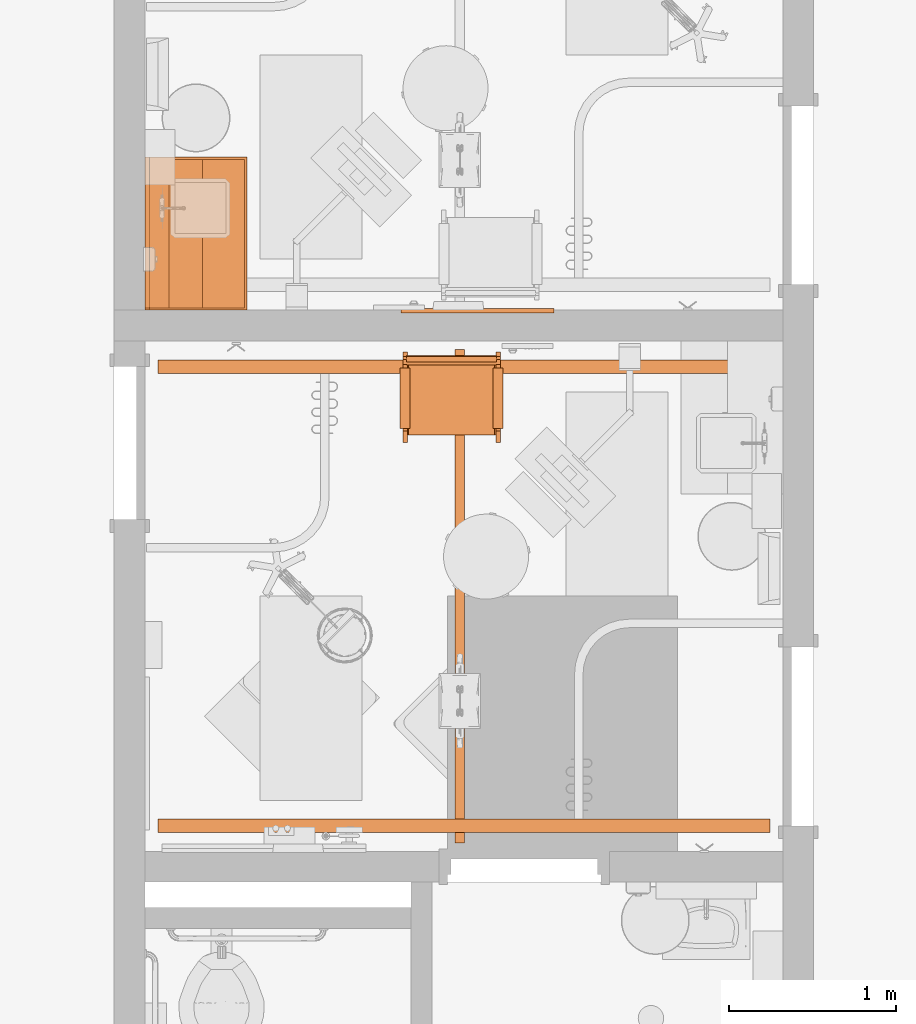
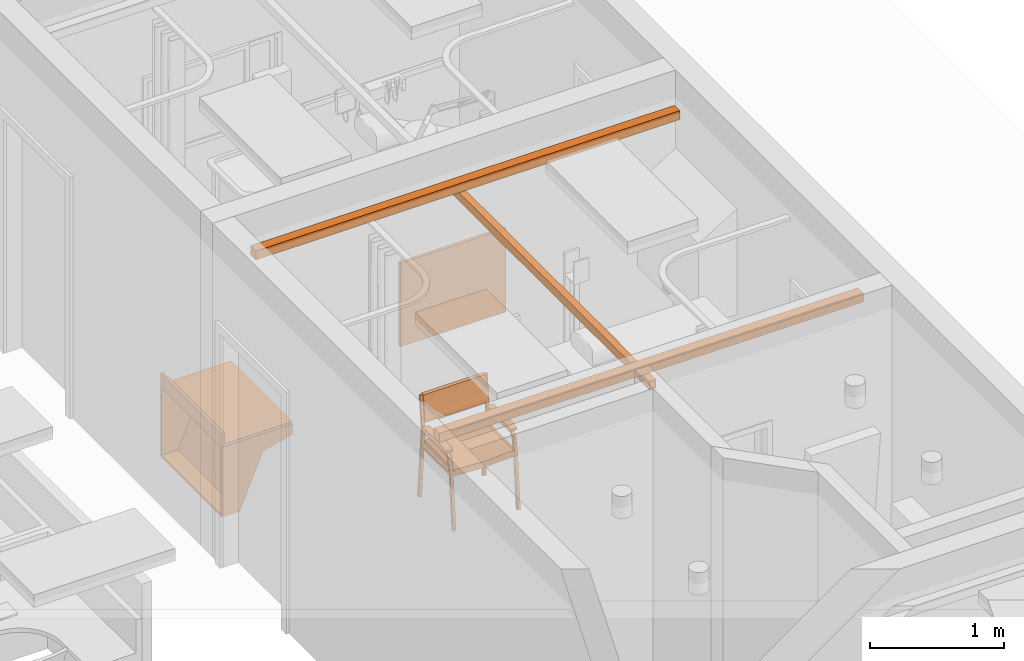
# One storey, part 35 of 142: 5 proxies.
"""IFC2X3 building model written with IfcOpenShell, lengths in feet."""

from ifc_helpers import new_model, entity, si_unit, converted_unit, derived_unit, direction, frame, frame_2d, origin, origin_2d_with_axis, place, context, subcontext, project, spatial, polyline, rectangle, outline, extrude, source, transform, mapped, type_object, type_shapes, element, save


model = new_model("IFC2X3")

# Units and contexts
model_context = context("Model", 3, precision=0.0001, world=origin(), true_north=direction((6.12303176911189e-17, 1.0)))
body_context = subcontext(model_context, "Body", "Model", "MODEL_VIEW")
ifc_project = project(units=[converted_unit("LENGTHUNIT", "FOOT", entity("IfcRatioMeasure", 0.3048), si_unit("LENGTHUNIT", "METRE"), dimensions=[1, 0, 0, 0, 0, 0, 0]), converted_unit("AREAUNIT", "SQUARE FOOT", entity("IfcRatioMeasure", 0.09290304), si_unit("AREAUNIT", "SQUARE_METRE"), dimensions=[2, 0, 0, 0, 0, 0, 0]), converted_unit("VOLUMEUNIT", "CUBIC FOOT", entity("IfcRatioMeasure", 0.028316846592), si_unit("VOLUMEUNIT", "CUBIC_METRE"), dimensions=[3, 0, 0, 0, 0, 0, 0]), converted_unit("PLANEANGLEUNIT", "DEGREE", entity("IfcRatioMeasure", 0.0174532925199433), si_unit("PLANEANGLEUNIT", "RADIAN"), dimensions=[0, 0, 0, 0, 0, 0, 0]), si_unit("MASSUNIT", "GRAM", prefix="KILO"), derived_unit("MASSDENSITYUNIT", [(si_unit("MASSUNIT", "GRAM", prefix="KILO"), 1), (si_unit("LENGTHUNIT", "METRE"), -3)]), si_unit("TIMEUNIT", "SECOND"), si_unit("FREQUENCYUNIT", "HERTZ"), si_unit("THERMODYNAMICTEMPERATUREUNIT", "DEGREE_CELSIUS"), derived_unit("THERMALTRANSMITTANCEUNIT", [(si_unit("MASSUNIT", "GRAM", prefix="KILO"), 1), (si_unit("THERMODYNAMICTEMPERATUREUNIT", "KELVIN"), -1), (si_unit("TIMEUNIT", "SECOND"), -3)]), derived_unit("VOLUMETRICFLOWRATEUNIT", [(si_unit("LENGTHUNIT", "METRE"), 3), (si_unit("TIMEUNIT", "SECOND"), -1)]), si_unit("ELECTRICCURRENTUNIT", "AMPERE"), si_unit("ELECTRICVOLTAGEUNIT", "VOLT"), si_unit("POWERUNIT", "WATT"), si_unit("FORCEUNIT", "NEWTON"), si_unit("ILLUMINANCEUNIT", "LUX"), si_unit("LUMINOUSFLUXUNIT", "LUMEN"), si_unit("LUMINOUSINTENSITYUNIT", "CANDELA"), derived_unit("USERDEFINED", [(si_unit("MASSUNIT", "GRAM", prefix="KILO"), -1), (si_unit("LENGTHUNIT", "METRE"), -2), (si_unit("TIMEUNIT", "SECOND"), 3), (si_unit("LUMINOUSFLUXUNIT", "LUMEN"), 1)]), derived_unit("LINEARVELOCITYUNIT", [(si_unit("LENGTHUNIT", "METRE"), 1), (si_unit("TIMEUNIT", "SECOND"), -1)]), si_unit("PRESSUREUNIT", "PASCAL"), derived_unit("USERDEFINED", [(si_unit("LENGTHUNIT", "METRE"), -2), (si_unit("MASSUNIT", "GRAM", prefix="KILO"), 1), (si_unit("TIMEUNIT", "SECOND"), -2)])], contexts=[model_context])

# Site, building, storey
site_placement = place(None, origin())
site = spatial("IfcSite", under=ifc_project, at=site_placement, Name="Default", CompositionType="ELEMENT")
building_placement = place(site_placement, origin())
building = spatial("IfcBuilding", under=site, at=building_placement, Name="OUTPATIENT / PACT CLINIC (Ch. 265)", CompositionType="ELEMENT")
storey_placement = place(building_placement, origin())
storey = spatial("IfcBuildingStorey", under=building, at=storey_placement, Name="LEVEL 1", CompositionType="ELEMENT", Elevation=0.0)

# Proxy
building_element_proxy_type_1 = type_object("IfcBuildingElementProxyType", Name="F3025 - Board, Bulletin, Wood Framed", PredefinedType="NOTDEFINED")
shared_shape_1 = source(origin(), body_context, "Body", "SweptSolid", [
    extrude(rectangle(XDim=0.0416666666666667, YDim=2.74999999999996, at=origin_2d_with_axis()), frame((0.0, -0.020833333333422, 0.124999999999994), z_axis=(0.0, 0.0, 1.0), x_axis=(0.0, 1.0, 0.0)), (0.0, 0.0, 1.0), 2.25000000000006),
    extrude(outline(polyline([(-1.49999999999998, -1.25), (1.49999999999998, -1.25), (1.49999999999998, 1.25), (-1.49999999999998, 1.25), (-1.49999999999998, -1.25)]), holes=[polyline([(-1.37499999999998, -1.125), (-1.37499999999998, 1.12500000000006), (1.37499999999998, 1.12500000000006), (1.37499999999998, -1.125), (-1.37499999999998, -1.125)])]), frame((0.0, -0.0833333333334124, 1.25), z_axis=(0.0, 1.0, 0.0), x_axis=(-1.0, 0.0, 0.0)), (0.0, 0.0, 1.0), 0.0833333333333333),
])
type_shapes(building_element_proxy_type_1, [shared_shape_1])
proxy_1_placement = place(storey_placement, frame((441.773085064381, -920.889258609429, 4.0), z_axis=(0.0, 0.0, 1.0), x_axis=(-1.0, 0.0, 0.0)))
element("IfcBuildingElementProxy", 1, at=proxy_1_placement, inside=storey, type_object=building_element_proxy_type_1, Name="F3025 - Board, Bulletin, Wood Framed:F3025 - Board, Bulletin, Wood Framed", ObjectType="F3025 - Board, Bulletin, Wood Framed", context=body_context, shape_type="MappedRepresentation", body=[
    mapped(shared_shape_1, transform((0.0, 0.0, 0.0), scale=1.0)),
])

# Space
space_1_placement = place(storey_placement, origin())
space_1 = spatial("IfcSpace", under=storey, at=space_1_placement, Name="EXW01", CompositionType="ELEMENT", InteriorOrExteriorSpace="INTERNAL")

# Proxy
building_element_proxy_type_2 = type_object("IfcBuildingElementProxyType", Name="F0205 - Chair, Side With Arms", PredefinedType="NOTDEFINED")
shared_shape_2 = source(origin(), body_context, "Body", "SweptSolid", [
    extrude(outline(polyline([(-0.104007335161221, -0.374369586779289), (-0.027711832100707, -0.374369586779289), (-0.0197350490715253, -0.338348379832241), (0.00592434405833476, -0.182113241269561), (0.0162560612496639, -0.135457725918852), (0.0457826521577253, -0.00212284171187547), (0.0856087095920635, 0.177721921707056), (0.112798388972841, 0.276572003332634), (0.120257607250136, 0.307674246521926), (0.129202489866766, 0.415216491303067), (0.045581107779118, 0.433734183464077), (0.0167028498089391, 0.395704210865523), (-0.0364083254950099, 0.222671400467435), (-0.125070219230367, -0.177704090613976), (-0.13682888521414, -0.27538652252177), (-0.128352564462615, -0.36942248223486), (-0.104007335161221, -0.374369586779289)])), frame((-0.891159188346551, -0.878769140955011, 2.73061112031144), z_axis=(0.0, 1.0, 0.0), x_axis=(0.991475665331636, 0.0, -0.130291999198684)), (0.0, 0.0, 1.0), 1.75919993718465),
    extrude(outline(polyline([(0.0907668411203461, -0.842703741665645), (0.261538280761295, -0.842703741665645), (0.265730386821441, -0.773999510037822), (0.127479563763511, 0.0287496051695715), (-0.0923338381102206, 0.813085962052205), (-0.125373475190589, 0.873420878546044), (-0.279635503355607, 0.800086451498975), (-0.270660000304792, 0.752608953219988), (-0.0560029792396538, -0.0126173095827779), (0.0784907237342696, -0.795927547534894), (0.0907668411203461, -0.842703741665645)])), frame((-0.90556950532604, 0.000822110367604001, 1.62079321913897), z_axis=(1.0, 0.0, 0.0), x_axis=(0.0, -0.219936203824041, -0.975514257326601)), (0.0, 0.0, 1.0), 1.47211210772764),
    extrude(outline(polyline([(-0.552031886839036, -0.234422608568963), (-0.484734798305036, -0.234422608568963), (-0.233837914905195, -0.160903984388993), (0.324339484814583, 0.0422559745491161), (0.453697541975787, 0.101150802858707), (0.564536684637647, 0.176717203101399), (0.51204038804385, 0.250193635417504), (0.420212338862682, 0.216770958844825), (0.254858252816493, 0.145732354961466), (-0.246233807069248, -0.0366502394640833), (-0.436544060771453, -0.0986810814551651), (-0.576302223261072, -0.167740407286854), (-0.552031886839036, -0.234422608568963)])), frame((-0.1510824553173, -1.00916916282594, 2.22827697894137), z_axis=(0.0, 1.0, 0.0), x_axis=(0.939692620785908, 0.0, 0.34202014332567)), (0.0, 0.0, 1.0), 0.198199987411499),
    extrude(outline(polyline([(-0.525375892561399, -0.221085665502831), (-0.458078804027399, -0.221085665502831), (-0.207181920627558, -0.147567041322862), (0.350995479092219, 0.0555929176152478), (0.480353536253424, 0.114487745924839), (0.591192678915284, 0.190054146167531), (0.551062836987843, 0.246221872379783), (0.114629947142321, 0.0873732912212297), (0.281514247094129, 0.159069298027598), (-0.219577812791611, -0.0233132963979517), (-0.409888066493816, -0.0853441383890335), (-0.549646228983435, -0.154403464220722), (-0.525375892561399, -0.221085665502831)])), frame((-0.180692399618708, 0.814330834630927, 2.23169271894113), z_axis=(0.0, 1.0, 0.0), x_axis=(0.939692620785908, 0.0, 0.34202014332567)), (0.0, 0.0, 1.0), 0.196499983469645),
    extrude(outline(polyline([(0.0166377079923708, -0.666422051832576), (0.099971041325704, -0.666422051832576), (-0.0172324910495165, 0.673220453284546), (-0.0993762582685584, 0.659623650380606), (0.0166377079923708, -0.666422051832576)])), frame((-0.182442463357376, -0.954369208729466, 1.61480726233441), z_axis=(0.0, 1.0, 0.0), x_axis=(0.0871557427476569, 0.0, -0.996194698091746)), (0.0, 0.0, 1.0), 0.0833333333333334),
    extrude(outline(polyline([(0.0166377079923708, -0.666422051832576), (0.099971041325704, -0.666422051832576), (-0.0172324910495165, 0.673220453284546), (-0.0993762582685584, 0.659623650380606), (0.0166377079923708, -0.666422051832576)])), frame((-0.182442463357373, 0.867430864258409, 1.61480726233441), z_axis=(0.0, 1.0, 0.0), x_axis=(0.0871557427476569, 0.0, -0.996194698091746)), (0.0, 0.0, 1.0), 0.0833333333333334),
    extrude(outline(polyline([(0.811855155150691, -1.61770011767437), (0.895188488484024, -1.61770011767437), (0.71143329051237, 0.489199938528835), (0.806416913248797, 1.46713632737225), (0.751033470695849, 1.46713632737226), (0.656855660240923, 0.571094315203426), (-0.516612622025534, 0.571094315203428), (-0.653571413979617, 0.441277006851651), (-0.728375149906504, 0.0391907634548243), (-0.871611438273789, -1.61770011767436), (-0.791571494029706, -1.61770011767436), (-0.646611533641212, 0.0391998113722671), (-0.578172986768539, 0.407071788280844), (-0.496044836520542, 0.48919993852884), (0.649788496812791, 0.489199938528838), (0.811855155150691, -1.61770011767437)])), frame((-0.163768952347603, -0.954369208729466, 1.61770011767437), z_axis=(0.0, 1.0, 0.0), x_axis=(-1.0, 0.0, 0.0)), (0.0, 0.0, 1.0), 0.0885709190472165),
    extrude(outline(polyline([(0.811855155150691, -1.61770011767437), (0.895188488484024, -1.61770011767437), (0.71143329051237, 0.489199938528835), (0.806416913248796, 1.46713632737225), (0.751033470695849, 1.46713632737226), (0.656855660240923, 0.571094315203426), (-0.516612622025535, 0.571094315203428), (-0.653571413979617, 0.441277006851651), (-0.728375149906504, 0.0391907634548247), (-0.871611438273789, -1.61770011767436), (-0.791571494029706, -1.61770011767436), (-0.646611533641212, 0.0391998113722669), (-0.578172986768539, 0.407071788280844), (-0.496044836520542, 0.48919993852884), (0.649788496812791, 0.489199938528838), (0.811855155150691, -1.61770011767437)])), frame((-0.1637689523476, 0.867430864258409, 1.61770011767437), z_axis=(0.0, 1.0, 0.0), x_axis=(-1.0, 0.0, 0.0)), (0.0, 0.0, 1.0), 0.0885709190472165),
])
type_shapes(building_element_proxy_type_2, [shared_shape_2])
proxy_2_placement = place(space_1_placement, frame((441.262447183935, -922.719049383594, 0.0), z_axis=(0.0, 0.0, 1.0), x_axis=(0.0, -1.0, 0.0)))
element("IfcBuildingElementProxy", 2, at=proxy_2_placement, inside=space_1, type_object=building_element_proxy_type_2, Name="F0205 - Chair, Side With Arms:F0205 - Chair, Side With Arms", ObjectType="F0205 - Chair, Side With Arms", context=body_context, shape_type="MappedRepresentation", body=[
    mapped(shared_shape_2, transform((0.0, 0.0, 0.0), scale=1.0)),
])

# Space
space_2_placement = place(storey_placement, origin())
space_2 = spatial("IfcSpace", under=storey, at=space_2_placement, Name="EXPA1", CompositionType="ELEMENT", InteriorOrExteriorSpace="INTERNAL")

# Proxies
building_element_proxy_type_3 = type_object("IfcBuildingElementProxyType", Name="CT020 - Countertop, Solid Surface - No Opening (1)", PredefinedType="NOTDEFINED")
shared_shape_3 = source(origin(), body_context, "Body", "SweptSolid", [
    extrude(rectangle(XDim=3.0, YDim=0.083333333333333, at=frame_2d((0.0, -5.55111512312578e-17), x_axis=(1.0, 0.0))), frame((0.0, 0.958333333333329, 0.0833333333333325)), (0.0, 0.0, 1.0), 0.333333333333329),
    extrude(rectangle(XDim=3.0, YDim=2.0, at=origin_2d_with_axis()), origin(), (0.0, 0.0, 1.0), 0.0833333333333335),
])
type_shapes(building_element_proxy_type_3, [shared_shape_3])
proxy_3_placement = place(space_2_placement, frame((436.254976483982, -919.337175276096, 2.70833333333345), z_axis=(0.0, 0.0, 1.0), x_axis=(0.0, 1.0, 0.0)))
element("IfcBuildingElementProxy", 3, at=proxy_3_placement, inside=space_2, type_object=building_element_proxy_type_3, Name="CT020 - Countertop, Solid Surface - No Opening (1):CT020 - Countertop, Solid Surface - No Opening (1)", ObjectType="CT020 - Countertop, Solid Surface - No Opening (1)", context=body_context, shape_type="MappedRepresentation", body=[
    mapped(shared_shape_3, transform((0.0, 0.0, 0.0), scale=1.0)),
])
building_element_proxy_type_4 = type_object("IfcBuildingElementProxyType", Name="24\"H x 24\"D x 36\"W", PredefinedType="NOTDEFINED")
shared_shape_4 = source(origin(), body_context, "Body", "SweptSolid", [
    extrude(outline(polyline([(-0.750382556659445, 0.0187614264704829), (0.944711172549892, 0.0187614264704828), (1.14381332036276, 0.488200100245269), (1.08627459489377, 0.51260389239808), (0.903330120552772, 0.081261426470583), (-0.774516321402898, 0.0812614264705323), (-1.30874051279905, -0.586799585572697), (-1.24448981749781, -0.614050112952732), (-0.750382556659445, 0.0187614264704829)])), frame((-1.45833333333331, -1.19293570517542, 1.67489402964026), z_axis=(1.0, 0.0, 0.0), x_axis=(0.0, 0.390460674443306, -0.920619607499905)), (0.0, 0.0, 1.0), 2.91666666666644),
    extrude(outline(polyline([(-1.24925608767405, -0.929380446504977), (0.834077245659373, -0.929380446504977), (0.834077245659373, 1.01791116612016), (0.519077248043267, 1.01791116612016), (0.311280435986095, 0.242403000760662), (-1.24925608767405, -0.41946443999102), (-1.24925608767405, -0.929380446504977)])), frame((-1.49999999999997, -1.2262554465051, 2.06175608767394), z_axis=(1.0, 0.0, 0.0), x_axis=(0.0, 0.0, 1.0)), (0.0, 0.0, 1.0), 0.0416666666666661),
    extrude(rectangle(XDim=3.0, YDim=0.0527083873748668, at=frame_2d((0.0, -2.22044604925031e-16), x_axis=(1.0, 0.0))), frame((0.0, -2.27052080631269, 2.58083333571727), z_axis=(0.0, 0.0, 1.0), x_axis=(-1.0, 0.0, 0.0)), (0.0, 0.0, 1.0), 0.314999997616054),
    extrude(outline(polyline([(-1.24925608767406, -0.929380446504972), (0.834077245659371, -0.929380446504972), (0.834077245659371, 1.01791116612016), (0.519077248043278, 1.01791116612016), (0.311280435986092, 0.24240300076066), (-1.24925608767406, -0.419464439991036), (-1.24925608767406, -0.929380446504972)])), frame((1.45833333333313, -1.22625544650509, 2.06175608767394), z_axis=(1.0, 0.0, 0.0), x_axis=(0.0, 0.0, 1.0)), (0.0, 0.0, 1.0), 0.0416666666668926),
])
type_shapes(building_element_proxy_type_4, [shared_shape_4])
proxy_4_placement = place(space_2_placement, frame((434.958101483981, -919.337175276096, -0.187499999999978), z_axis=(0.0, 0.0, 1.0), x_axis=(0.0, 1.0, 0.0)))
element("IfcBuildingElementProxy", 4, at=proxy_4_placement, inside=space_2, type_object=building_element_proxy_type_4, Name="Z1018 - Cabinet, ADA Sink Support:24\"H x 24\"D x 36\"W", ObjectType="24\"H x 24\"D x 36\"W", context=body_context, shape_type="MappedRepresentation", body=[
    mapped(shared_shape_4, transform((0.0, 0.0, 0.0), scale=1.0)),
])
building_element_proxy_type_5 = type_object("IfcBuildingElementProxyType", Name="A1203 Lift System, Overhead, Bariatric", PredefinedType="NOTDEFINED")
shared_shape_5 = source(origin(), body_context, "Body", "SweptSolid", [
    extrude(rectangle(XDim=9.66757011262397, YDim=0.190288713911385, at=frame_2d((0.0, -6.93889390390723e-18), x_axis=(1.0, 0.0))), frame((0.244358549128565, 0.0796819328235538, 8.63910761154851), z_axis=(0.0, 0.0, 1.0), x_axis=(-1.0, 0.0, 0.0)), (0.0, 0.0, 1.0), 0.249343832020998),
    extrude(rectangle(XDim=11.9998599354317, YDim=0.267060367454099, at=frame_2d((0.0, 4.44089209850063e-16), x_axis=(1.0, 0.0))), frame((4.74481027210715, 0.0, 8.99015748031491), z_axis=(0.0, 0.0, 1.0), x_axis=(0.0, 1.0, 0.0)), (0.0, 0.0, 1.0), 0.265748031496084),
    extrude(rectangle(XDim=11.9998599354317, YDim=0.267060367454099, at=frame_2d((0.0, 4.44089209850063e-16), x_axis=(1.0, 0.0))), frame((-4.25609317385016, 0.0, 8.99015748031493), z_axis=(0.0, 0.0, 1.0), x_axis=(0.0, 1.0, 0.0)), (0.0, 0.0, 1.0), 0.265748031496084),
])
type_shapes(building_element_proxy_type_5, [shared_shape_5])
proxy_5_placement = place(space_1_placement, frame((441.505047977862, -926.686152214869, 0.0), z_axis=(0.0, 0.0, 1.0), x_axis=(0.0, 1.0, 0.0)))
element("IfcBuildingElementProxy", 5, at=proxy_5_placement, inside=space_1, type_object=building_element_proxy_type_5, Name="A1203 Lift System, Overhead, Bariatric (Traverse):A1203 Lift System, Overhead, Bariatric", ObjectType="A1203 Lift System, Overhead, Bariatric", context=body_context, shape_type="MappedRepresentation", body=[
    mapped(shared_shape_5, transform((0.0, 0.0, 0.0), scale=1.0)),
])

save(model, "model.ifc")
